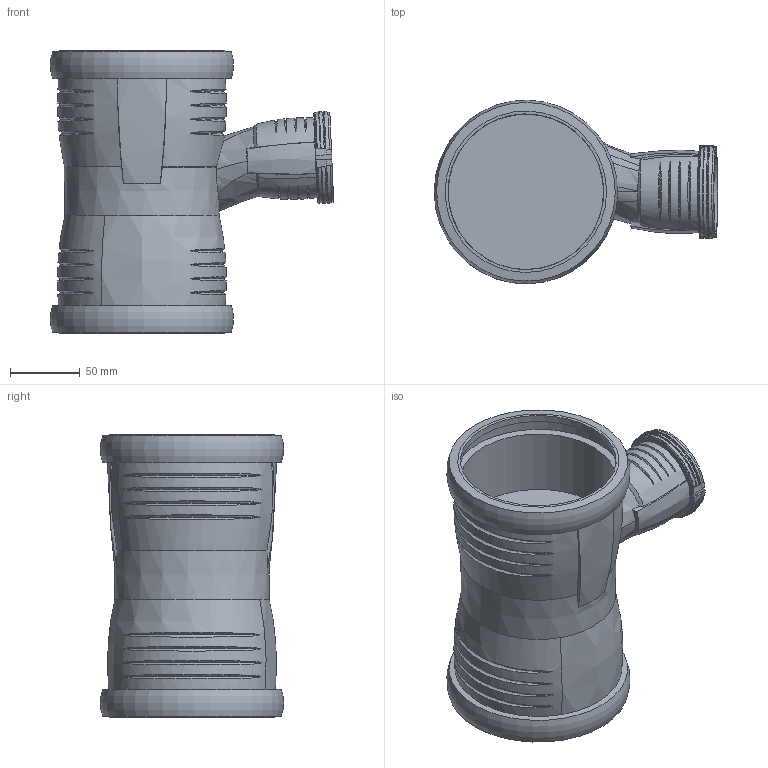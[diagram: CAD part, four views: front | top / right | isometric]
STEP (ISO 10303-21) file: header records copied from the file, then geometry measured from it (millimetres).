
FILE_DESCRIPTION(/* description */ (''),/* implementation_level */ '2;1');
FILE_NAME(/* name */ 'C:\Planerdaten\Export PLA\393.546.14.1\stp\393546.stp',/* time_stamp */ '2022-09-16T14:48:23+02:00',/* author */ ('JANAN'),/* organization */ (''),/* preprocessor_version */ 'ST-DEVELOPER v18.1',/* originating_system */ 'Autodesk Inventor 2021',/* authorisation */ '');
FILE_SCHEMA (('AUTOMOTIVE_DESIGN { 1 0 10303 214 3 1 1 }'));
Length unit declared in the file: millimetre
Products named in the file (1): tmpFC32.tmp
Bounding box: 202.56 x 130.96 x 202 mm (x, y, z)
Volume: 1087618.4 mm3; surface area: 183801.4 mm2
Topology: 1 solids, 2 shells, 199 faces, 506 edges, 333 vertices
Faces by surface type: bspline 132, cone 31, cylinder 18, plane 9, torus 8, sphere 1
Full cylindrical faces by diameter (mm): 50.7 x1, 60.1 x1, 111 x2, 111.3 x2, 121.5 x2
Entity records: 31020 total; most frequent: CARTESIAN_POINT 26726, ORIENTED_EDGE 1002, DIRECTION 597, EDGE_CURVE 501, VERTEX_POINT 334, AXIS2_PLACEMENT_3D 270, B_SPLINE_CURVE_WITH_KNOTS 238, EDGE_LOOP 227
